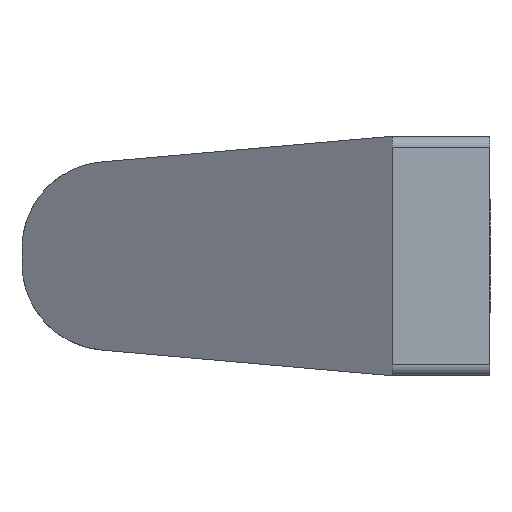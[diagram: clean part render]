
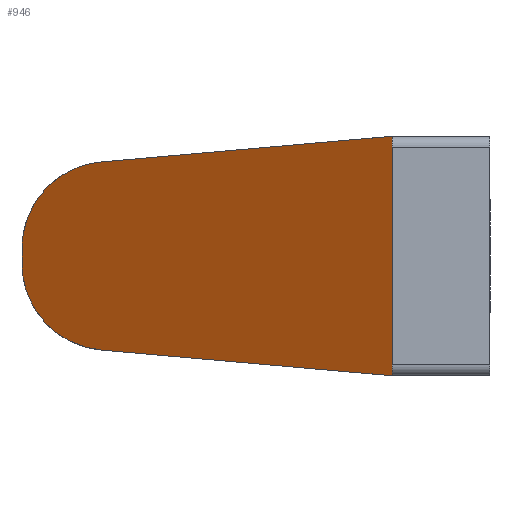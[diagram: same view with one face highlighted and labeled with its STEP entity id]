
A CAD part, left-side view. The second image highlights one B-rep face of the part: STEP entity #946.
In plain terms, the highlighted planar face has unit normal (-0.845, 0.534, 0).
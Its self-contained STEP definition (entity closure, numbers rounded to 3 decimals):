
#12 = CARTESIAN_POINT ( 'NONE',  ( -41.5, 43., -5.04 ) ) ;
#14 = CARTESIAN_POINT ( 'NONE',  ( -41.5, 43., -0.675 ) ) ;
#20 = ORIENTED_EDGE ( 'NONE', *, *, #216, .F. ) ;
#24 = LINE ( 'NONE', #1023, #26 ) ;
#26 = VECTOR ( 'NONE', #535, 1000. ) ;
#45 = CARTESIAN_POINT ( 'NONE',  ( -63., 9., -11. ) ) ;
#67 = CARTESIAN_POINT ( 'NONE',  ( -41.5, 43., -0.675 ) ) ;
#78 = DIRECTION ( 'NONE',  ( 0., 0., -1. ) ) ;
#83 = EDGE_CURVE ( 'NONE', #357, #795, #407, .T. ) ;
#98 = CARTESIAN_POINT ( 'NONE',  ( -43.364, 40.052, -8.26 ) ) ;
#100 = EDGE_CURVE ( 'NONE', #315, #868, #233, .T. ) ;
#103 = VECTOR ( 'NONE', #840, 1000. ) ;
#170 = FACE_OUTER_BOUND ( 'NONE', #673, .T. ) ;
#177 = CARTESIAN_POINT ( 'NONE',  ( -41.5, 43., 0.675 ) ) ;
#196 = ORIENTED_EDGE ( 'NONE', *, *, #83, .F. ) ;
#212 = CARTESIAN_POINT ( 'NONE',  ( -46.114, 35.703, 8.644 ) ) ;
#216 = EDGE_CURVE ( 'NONE', #381, #868, #711, .T. ) ;
#233 = LINE ( 'NONE', #246, #993 ) ;
#246 = CARTESIAN_POINT ( 'NONE',  ( -41.5, 43., 11. ) ) ;
#269 = CARTESIAN_POINT ( 'NONE',  ( -43.364, 40.052, 8.26 ) ) ;
#313 = VECTOR ( 'NONE', #78, 1000. ) ;
#315 = VERTEX_POINT ( 'NONE', #337 ) ;
#337 = CARTESIAN_POINT ( 'NONE',  ( -41.5, 43., 0.675 ) ) ;
#347 = AXIS2_PLACEMENT_3D ( 'NONE', #873, #395, #1035 ) ;
#350 = CARTESIAN_POINT ( 'NONE',  ( -46.114, 35.703, -8.644 ) ) ;
#357 = VERTEX_POINT ( 'NONE', #404 ) ;
#381 = VERTEX_POINT ( 'NONE', #722 ) ;
#395 = DIRECTION ( 'NONE',  ( 0.845, -0.534, 0. ) ) ;
#401 = CARTESIAN_POINT ( 'NONE',  ( -63., 9., 11. ) ) ;
#404 = CARTESIAN_POINT ( 'NONE',  ( -63., 9., 11. ) ) ;
#405 = EDGE_CURVE ( 'NONE', #315, #800, #1011, .T. ) ;
#407 = LINE ( 'NONE', #401, #313 ) ;
#410 = ORIENTED_EDGE ( 'NONE', *, *, #562, .F. ) ;
#468 = PLANE ( 'NONE',  #347 ) ;
#535 = DIRECTION ( 'NONE',  ( 0.533, 0.843, 0.074 ) ) ;
#554 = ORIENTED_EDGE ( 'NONE', *, *, #405, .F. ) ;
#562 = EDGE_CURVE ( 'NONE', #800, #357, #746, .T. ) ;
#673 = EDGE_LOOP ( 'NONE', ( #410, #554, #970, #20, #712, #196 ) ) ;
#679 = CARTESIAN_POINT ( 'NONE',  ( -63., 9., 11. ) ) ;
#711 =( BOUNDED_CURVE ( )  B_SPLINE_CURVE ( 3, ( #350, #98, #12, #14 ),
 .UNSPECIFIED., .F., .T. ) 
 B_SPLINE_CURVE_WITH_KNOTS ( ( 4, 4 ),
 ( 1.659, 3.142 ),
 .UNSPECIFIED. ) 
 CURVE ( )  GEOMETRIC_REPRESENTATION_ITEM ( )  RATIONAL_B_SPLINE_CURVE ( ( 1., 0.825, 0.825, 1. ) ) 
 REPRESENTATION_ITEM ( '' )  );
#712 = ORIENTED_EDGE ( 'NONE', *, *, #791, .F. ) ;
#722 = CARTESIAN_POINT ( 'NONE',  ( -46.114, 35.703, -8.644 ) ) ;
#727 = DIRECTION ( 'NONE',  ( 0., 0., -1. ) ) ;
#746 = LINE ( 'NONE', #679, #103 ) ;
#791 = EDGE_CURVE ( 'NONE', #795, #381, #24, .T. ) ;
#795 = VERTEX_POINT ( 'NONE', #45 ) ;
#800 = VERTEX_POINT ( 'NONE', #212 ) ;
#830 = CARTESIAN_POINT ( 'NONE',  ( -41.5, 43., 5.04 ) ) ;
#840 = DIRECTION ( 'NONE',  ( -0.533, -0.843, 0.074 ) ) ;
#868 = VERTEX_POINT ( 'NONE', #67 ) ;
#873 = CARTESIAN_POINT ( 'NONE',  ( -63., 9., 11. ) ) ;
#946 = ADVANCED_FACE ( 'NONE', ( #170 ), #468, .F. ) ;
#970 = ORIENTED_EDGE ( 'NONE', *, *, #100, .T. ) ;
#988 = CARTESIAN_POINT ( 'NONE',  ( -46.114, 35.703, 8.644 ) ) ;
#993 = VECTOR ( 'NONE', #727, 1000. ) ;
#1011 =( BOUNDED_CURVE ( )  B_SPLINE_CURVE ( 3, ( #177, #830, #269, #988 ),
 .UNSPECIFIED., .F., .F. ) 
 B_SPLINE_CURVE_WITH_KNOTS ( ( 4, 4 ),
 ( 3.142, 4.624 ),
 .UNSPECIFIED. ) 
 CURVE ( )  GEOMETRIC_REPRESENTATION_ITEM ( )  RATIONAL_B_SPLINE_CURVE ( ( 1., 0.825, 0.825, 1. ) ) 
 REPRESENTATION_ITEM ( '' )  );
#1023 = CARTESIAN_POINT ( 'NONE',  ( -62.128, 10.379, -10.878 ) ) ;
#1035 = DIRECTION ( 'NONE',  ( 0.534, 0.845, 0. ) ) ;
